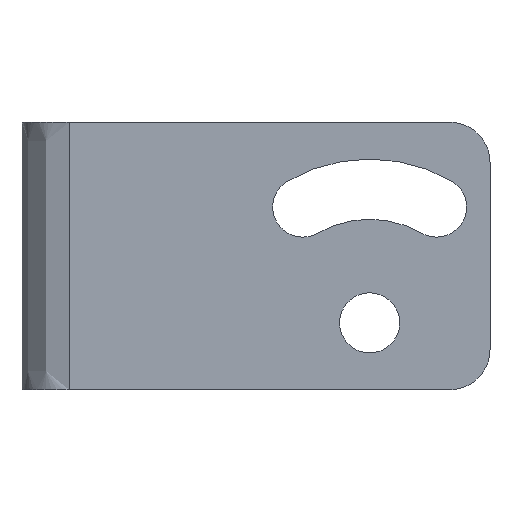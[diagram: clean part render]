
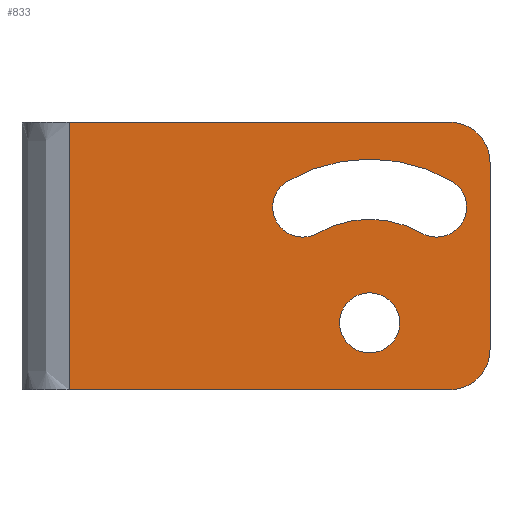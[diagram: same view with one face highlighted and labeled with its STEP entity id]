
A CAD part, front view. The second image highlights one B-rep face of the part: STEP entity #833.
In plain terms, the highlighted planar face has unit normal (0, -1, 0).
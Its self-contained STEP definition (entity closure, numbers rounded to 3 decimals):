
#141=CARTESIAN_POINT('',(12.25,-20.0,-10.0));
#142=VERTEX_POINT('',#141);
#151=CARTESIAN_POINT('',(7.75,-20.0,-10.0));
#152=VERTEX_POINT('',#151);
#153=CARTESIAN_POINT('',(10.0,-20.0,-10.0));
#154=DIRECTION('',(0.0,1.0,0.0));
#155=DIRECTION('',(1.0,0.0,0.0));
#156=AXIS2_PLACEMENT_3D('',#153,#154,#155);
#157=CIRCLE('',#156,2.25);
#158=EDGE_CURVE('',#152,#142,#157,.T.);
#183=CARTESIAN_POINT('',(17.25,-20.0,-1.34));
#184=VERTEX_POINT('',#183);
#193=CARTESIAN_POINT('',(16.125,-20.0,0.609));
#194=VERTEX_POINT('',#193);
#195=CARTESIAN_POINT('',(15.,-20.0,-1.34));
#196=DIRECTION('',(0.0,1.0,0.0));
#197=DIRECTION('',(1.0,0.0,0.0));
#198=AXIS2_PLACEMENT_3D('',#195,#196,#197);
#199=CIRCLE('',#198,2.25);
#200=EDGE_CURVE('',#194,#184,#199,.T.);
#227=CARTESIAN_POINT('',(2.75,-20.0,-1.34));
#228=VERTEX_POINT('',#227);
#244=CARTESIAN_POINT('',(3.875,-20.0,0.609));
#245=VERTEX_POINT('',#244);
#252=CARTESIAN_POINT('',(5.0,-20.0,-1.34));
#253=DIRECTION('',(0.0,1.0,0.0));
#254=DIRECTION('',(1.0,0.0,0.0));
#255=AXIS2_PLACEMENT_3D('',#252,#253,#254);
#256=CIRCLE('',#255,2.25);
#257=EDGE_CURVE('',#228,#245,#256,.T.);
#545=CARTESIAN_POINT('',(18.121,-20.0,4.121));
#546=VERTEX_POINT('',#545);
#562=CARTESIAN_POINT('',(16.0,-20.0,5.0));
#563=VERTEX_POINT('',#562);
#570=CARTESIAN_POINT('',(16.0,-20.0,2.0));
#571=DIRECTION('',(0.0,1.,0.0));
#572=DIRECTION('',(0.707,0.0,0.707));
#573=AXIS2_PLACEMENT_3D('',#570,#571,#572);
#574=CIRCLE('',#573,3.0);
#575=EDGE_CURVE('',#563,#546,#574,.T.);
#587=CARTESIAN_POINT('',(18.121,-20.0,-14.121));
#588=VERTEX_POINT('',#587);
#604=CARTESIAN_POINT('',(19.0,-20.0,-12.0));
#605=VERTEX_POINT('',#604);
#612=CARTESIAN_POINT('',(16.0,-20.0,-12.0));
#613=DIRECTION('',(0.0,1.,0.0));
#614=DIRECTION('',(0.707,0.0,-0.707));
#615=AXIS2_PLACEMENT_3D('',#612,#613,#614);
#616=CIRCLE('',#615,3.0);
#617=EDGE_CURVE('',#605,#588,#616,.T.);
#628=CARTESIAN_POINT('',(16.0,-20.0,-15.0));
#629=VERTEX_POINT('',#628);
#630=CARTESIAN_POINT('',(16.0,-20.0,-12.0));
#631=DIRECTION('',(0.0,1.,0.0));
#632=DIRECTION('',(0.707,0.0,-0.707));
#633=AXIS2_PLACEMENT_3D('',#630,#631,#632);
#634=CIRCLE('',#633,3.0);
#635=EDGE_CURVE('',#588,#629,#634,.T.);
#661=CARTESIAN_POINT('',(-12.464,-20.0,-15.0));
#662=VERTEX_POINT('',#661);
#663=CARTESIAN_POINT('',(16.0,-20.0,-15.0));
#664=DIRECTION('',(-1.0,0.0,0.0));
#665=VECTOR('',#664,28.464);
#666=LINE('',#663,#665);
#667=EDGE_CURVE('',#629,#662,#666,.T.);
#732=CARTESIAN_POINT('',(15.0,-20.0,-15.0));
#733=DIRECTION('',(0.0,-1.0,0.0));
#734=DIRECTION('',(0.0,0.0,-1.0));
#735=AXIS2_PLACEMENT_3D('',#732,#733,#734);
#736=PLANE('',#735);
#737=ORIENTED_EDGE('',*,*,#617,.F.);
#738=CARTESIAN_POINT('',(19.0,-20.0,2.0));
#739=VERTEX_POINT('',#738);
#740=CARTESIAN_POINT('',(19.0,-20.0,-12.0));
#741=DIRECTION('',(0.0,0.0,1.0));
#742=VECTOR('',#741,14.0);
#743=LINE('',#740,#742);
#744=EDGE_CURVE('',#605,#739,#743,.T.);
#745=ORIENTED_EDGE('',*,*,#744,.T.);
#746=CARTESIAN_POINT('',(16.0,-20.0,2.0));
#747=DIRECTION('',(0.0,1.,0.0));
#748=DIRECTION('',(0.707,0.0,0.707));
#749=AXIS2_PLACEMENT_3D('',#746,#747,#748);
#750=CIRCLE('',#749,3.0);
#751=EDGE_CURVE('',#546,#739,#750,.T.);
#752=ORIENTED_EDGE('',*,*,#751,.F.);
#753=ORIENTED_EDGE('',*,*,#575,.F.);
#754=CARTESIAN_POINT('',(-12.464,-20.0,5.0));
#755=VERTEX_POINT('',#754);
#756=CARTESIAN_POINT('',(16.0,-20.0,5.0));
#757=DIRECTION('',(-1.0,0.0,0.0));
#758=VECTOR('',#757,28.464);
#759=LINE('',#756,#758);
#760=EDGE_CURVE('',#563,#755,#759,.T.);
#761=ORIENTED_EDGE('',*,*,#760,.T.);
#762=CARTESIAN_POINT('',(-12.464,-20.0,-15.0));
#763=CARTESIAN_POINT('',(-12.464,-20.0,-14.542));
#764=CARTESIAN_POINT('',(-12.464,-20.0,-14.083));
#765=CARTESIAN_POINT('',(-12.464,-20.0,-12.667));
#766=CARTESIAN_POINT('',(-12.464,-20.0,-11.708));
#767=CARTESIAN_POINT('',(-12.464,-20.0,-9.792));
#768=CARTESIAN_POINT('',(-12.464,-20.0,-8.833));
#769=CARTESIAN_POINT('',(-12.464,-20.0,-6.917));
#770=CARTESIAN_POINT('',(-12.464,-20.0,-5.958));
#771=CARTESIAN_POINT('',(-12.464,-20.0,-4.042));
#772=CARTESIAN_POINT('',(-12.464,-20.0,-3.083));
#773=CARTESIAN_POINT('',(-12.464,-20.0,-1.167));
#774=CARTESIAN_POINT('',(-12.464,-20.0,-0.208));
#775=CARTESIAN_POINT('',(-12.464,-20.0,1.708));
#776=CARTESIAN_POINT('',(-12.464,-20.0,2.667));
#777=CARTESIAN_POINT('',(-12.464,-20.0,4.083));
#778=CARTESIAN_POINT('',(-12.464,-20.0,4.542));
#779=CARTESIAN_POINT('',(-12.464,-20.0,5.0));
#780=B_SPLINE_CURVE_WITH_KNOTS('',3,(#762,#763,#764,#765,#766,#767,#768,#769,#770,#771,#772,#773,#774,#775,#776,#777,#778,#779),.UNSPECIFIED.,.F.,.U.,(4,2,2,2,2,2,2,2,4),(0.,1.375,4.25,7.125,10.0,12.875,15.75,18.625,20.0),.UNSPECIFIED.);
#781=EDGE_CURVE('',#662,#755,#780,.T.);
#782=ORIENTED_EDGE('',*,*,#781,.F.);
#783=ORIENTED_EDGE('',*,*,#667,.F.);
#784=ORIENTED_EDGE('',*,*,#635,.F.);
#785=EDGE_LOOP('',(#737,#745,#752,#753,#761,#782,#783,#784));
#786=FACE_OUTER_BOUND('',#785,.T.);
#787=CARTESIAN_POINT('',(10.0,-20.0,-10.0));
#788=DIRECTION('',(0.0,1.0,0.0));
#789=DIRECTION('',(1.0,0.0,0.0));
#790=AXIS2_PLACEMENT_3D('',#787,#788,#789);
#791=CIRCLE('',#790,12.25);
#792=EDGE_CURVE('',#245,#194,#791,.T.);
#793=ORIENTED_EDGE('',*,*,#792,.T.);
#794=ORIENTED_EDGE('',*,*,#200,.T.);
#795=CARTESIAN_POINT('',(13.875,-20.0,-3.288));
#796=VERTEX_POINT('',#795);
#797=CARTESIAN_POINT('',(15.,-20.0,-1.34));
#798=DIRECTION('',(0.0,1.0,0.0));
#799=DIRECTION('',(1.0,0.0,0.0));
#800=AXIS2_PLACEMENT_3D('',#797,#798,#799);
#801=CIRCLE('',#800,2.25);
#802=EDGE_CURVE('',#184,#796,#801,.T.);
#803=ORIENTED_EDGE('',*,*,#802,.T.);
#804=CARTESIAN_POINT('',(6.125,-20.0,-3.288));
#805=VERTEX_POINT('',#804);
#806=CARTESIAN_POINT('',(10.0,-20.0,-10.0));
#807=DIRECTION('',(0.0,-1.0,0.0));
#808=DIRECTION('',(1.0,0.0,0.0));
#809=AXIS2_PLACEMENT_3D('',#806,#807,#808);
#810=CIRCLE('',#809,7.75);
#811=EDGE_CURVE('',#796,#805,#810,.T.);
#812=ORIENTED_EDGE('',*,*,#811,.T.);
#813=CARTESIAN_POINT('',(5.0,-20.0,-1.34));
#814=DIRECTION('',(0.0,1.0,0.0));
#815=DIRECTION('',(1.0,0.0,0.0));
#816=AXIS2_PLACEMENT_3D('',#813,#814,#815);
#817=CIRCLE('',#816,2.25);
#818=EDGE_CURVE('',#805,#228,#817,.T.);
#819=ORIENTED_EDGE('',*,*,#818,.T.);
#820=ORIENTED_EDGE('',*,*,#257,.T.);
#821=EDGE_LOOP('',(#793,#794,#803,#812,#819,#820));
#822=FACE_BOUND('',#821,.T.);
#823=ORIENTED_EDGE('',*,*,#158,.T.);
#824=CARTESIAN_POINT('',(10.0,-20.0,-10.0));
#825=DIRECTION('',(0.0,1.0,0.0));
#826=DIRECTION('',(1.0,0.0,0.0));
#827=AXIS2_PLACEMENT_3D('',#824,#825,#826);
#828=CIRCLE('',#827,2.25);
#829=EDGE_CURVE('',#142,#152,#828,.T.);
#830=ORIENTED_EDGE('',*,*,#829,.T.);
#831=EDGE_LOOP('',(#823,#830));
#832=FACE_BOUND('',#831,.T.);
#833=ADVANCED_FACE('',(#786,#822,#832),#736,.T.);
